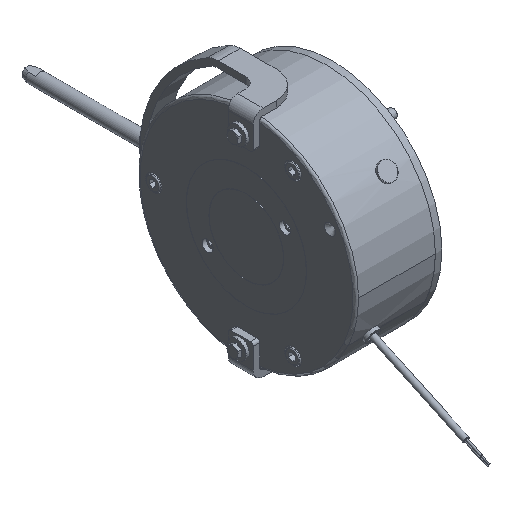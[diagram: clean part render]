
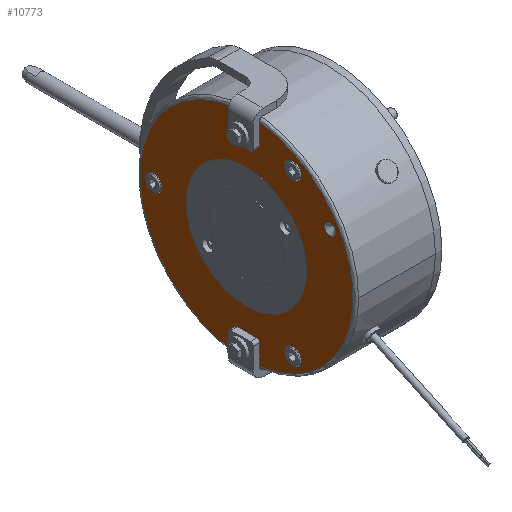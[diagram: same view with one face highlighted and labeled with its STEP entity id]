
A CAD part, isometric view. The second image highlights one B-rep face of the part: STEP entity #10773.
In plain terms, the highlighted planar face has unit normal (-1, 0, 0).
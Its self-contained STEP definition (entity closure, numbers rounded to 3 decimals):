
#277=PLANE('',#11615);
#398=FACE_BOUND('',#1241,.T.);
#399=FACE_BOUND('',#1242,.T.);
#400=FACE_BOUND('',#1243,.T.);
#401=FACE_BOUND('',#1244,.T.);
#402=FACE_BOUND('',#1245,.T.);
#611=FACE_OUTER_BOUND('',#1240,.T.);
#1240=EDGE_LOOP('',(#7333,#7334,#7335,#7336,#7337,#7338,#7339,#7340,#7341,
#7342,#7343,#7344));
#1241=EDGE_LOOP('',(#7345,#7346));
#1242=EDGE_LOOP('',(#7347,#7348));
#1243=EDGE_LOOP('',(#7349,#7350));
#1244=EDGE_LOOP('',(#7351,#7352));
#1245=EDGE_LOOP('',(#7353,#7354));
#2052=CIRCLE('',#11439,55.);
#2053=CIRCLE('',#11440,55.);
#2083=CIRCLE('',#11481,7.5);
#2084=CIRCLE('',#11482,7.5);
#2089=CIRCLE('',#11490,7.5);
#2090=CIRCLE('',#11491,7.5);
#2095=CIRCLE('',#11499,7.5);
#2096=CIRCLE('',#11500,7.5);
#2103=CIRCLE('',#11511,97.5);
#2106=CIRCLE('',#11514,97.5);
#2138=CIRCLE('',#11560,5.);
#2139=CIRCLE('',#11561,5.);
#2168=CIRCLE('',#11616,2.5);
#2169=CIRCLE('',#11617,2.5);
#2170=CIRCLE('',#11618,2.5);
#2171=CIRCLE('',#11619,2.5);
#2894=LINE('',#17066,#3437);
#2895=LINE('',#17070,#3438);
#2896=LINE('',#17073,#3439);
#2897=LINE('',#17075,#3440);
#2898=LINE('',#17079,#3441);
#2899=LINE('',#17082,#3442);
#3437=VECTOR('',#13558,10.);
#3438=VECTOR('',#13561,10.);
#3439=VECTOR('',#13564,10.);
#3440=VECTOR('',#13565,10.);
#3441=VECTOR('',#13568,10.);
#3442=VECTOR('',#13571,10.);
#4015=VERTEX_POINT('',#16724);
#4016=VERTEX_POINT('',#16725);
#4042=VERTEX_POINT('',#16797);
#4043=VERTEX_POINT('',#16798);
#4048=VERTEX_POINT('',#16814);
#4049=VERTEX_POINT('',#16815);
#4054=VERTEX_POINT('',#16831);
#4055=VERTEX_POINT('',#16832);
#4062=VERTEX_POINT('',#16877);
#4063=VERTEX_POINT('',#16879);
#4065=VERTEX_POINT('',#16883);
#4066=VERTEX_POINT('',#16885);
#4095=VERTEX_POINT('',#16968);
#4096=VERTEX_POINT('',#16969);
#4120=VERTEX_POINT('',#17065);
#4121=VERTEX_POINT('',#17067);
#4122=VERTEX_POINT('',#17069);
#4123=VERTEX_POINT('',#17071);
#4124=VERTEX_POINT('',#17074);
#4125=VERTEX_POINT('',#17076);
#4126=VERTEX_POINT('',#17078);
#4127=VERTEX_POINT('',#17080);
#5180=EDGE_CURVE('',#4015,#4016,#2052,.T.);
#5181=EDGE_CURVE('',#4016,#4015,#2053,.T.);
#5215=EDGE_CURVE('',#4042,#4043,#2083,.T.);
#5216=EDGE_CURVE('',#4043,#4042,#2084,.T.);
#5223=EDGE_CURVE('',#4048,#4049,#2089,.T.);
#5224=EDGE_CURVE('',#4049,#4048,#2090,.T.);
#5231=EDGE_CURVE('',#4054,#4055,#2095,.T.);
#5232=EDGE_CURVE('',#4055,#4054,#2096,.T.);
#5244=EDGE_CURVE('',#4062,#4063,#2103,.T.);
#5247=EDGE_CURVE('',#4065,#4066,#2106,.T.);
#5287=EDGE_CURVE('',#4095,#4096,#2138,.T.);
#5288=EDGE_CURVE('',#4096,#4095,#2139,.T.);
#5333=EDGE_CURVE('',#4062,#4120,#2894,.T.);
#5334=EDGE_CURVE('',#4120,#4121,#2168,.T.);
#5335=EDGE_CURVE('',#4121,#4122,#2895,.T.);
#5336=EDGE_CURVE('',#4122,#4123,#2169,.T.);
#5337=EDGE_CURVE('',#4123,#4066,#2896,.T.);
#5338=EDGE_CURVE('',#4065,#4124,#2897,.T.);
#5339=EDGE_CURVE('',#4124,#4125,#2170,.T.);
#5340=EDGE_CURVE('',#4125,#4126,#2898,.T.);
#5341=EDGE_CURVE('',#4126,#4127,#2171,.T.);
#5342=EDGE_CURVE('',#4127,#4063,#2899,.T.);
#7333=ORIENTED_EDGE('',*,*,#5333,.T.);
#7334=ORIENTED_EDGE('',*,*,#5334,.T.);
#7335=ORIENTED_EDGE('',*,*,#5335,.T.);
#7336=ORIENTED_EDGE('',*,*,#5336,.T.);
#7337=ORIENTED_EDGE('',*,*,#5337,.T.);
#7338=ORIENTED_EDGE('',*,*,#5247,.F.);
#7339=ORIENTED_EDGE('',*,*,#5338,.T.);
#7340=ORIENTED_EDGE('',*,*,#5339,.T.);
#7341=ORIENTED_EDGE('',*,*,#5340,.T.);
#7342=ORIENTED_EDGE('',*,*,#5341,.T.);
#7343=ORIENTED_EDGE('',*,*,#5342,.T.);
#7344=ORIENTED_EDGE('',*,*,#5244,.F.);
#7345=ORIENTED_EDGE('',*,*,#5231,.T.);
#7346=ORIENTED_EDGE('',*,*,#5232,.T.);
#7347=ORIENTED_EDGE('',*,*,#5223,.T.);
#7348=ORIENTED_EDGE('',*,*,#5224,.T.);
#7349=ORIENTED_EDGE('',*,*,#5215,.T.);
#7350=ORIENTED_EDGE('',*,*,#5216,.T.);
#7351=ORIENTED_EDGE('',*,*,#5180,.T.);
#7352=ORIENTED_EDGE('',*,*,#5181,.T.);
#7353=ORIENTED_EDGE('',*,*,#5287,.T.);
#7354=ORIENTED_EDGE('',*,*,#5288,.T.);
#10773=ADVANCED_FACE('',(#611,#398,#399,#400,#401,#402),#277,.T.);
#11439=AXIS2_PLACEMENT_3D('',#16726,#13168,#13169);
#11440=AXIS2_PLACEMENT_3D('',#16727,#13170,#13171);
#11481=AXIS2_PLACEMENT_3D('',#16799,#13256,#13257);
#11482=AXIS2_PLACEMENT_3D('',#16800,#13258,#13259);
#11490=AXIS2_PLACEMENT_3D('',#16816,#13276,#13277);
#11491=AXIS2_PLACEMENT_3D('',#16817,#13278,#13279);
#11499=AXIS2_PLACEMENT_3D('',#16833,#13296,#13297);
#11500=AXIS2_PLACEMENT_3D('',#16834,#13298,#13299);
#11511=AXIS2_PLACEMENT_3D('',#16880,#13324,#13325);
#11514=AXIS2_PLACEMENT_3D('',#16886,#13330,#13331);
#11560=AXIS2_PLACEMENT_3D('',#16970,#13430,#13431);
#11561=AXIS2_PLACEMENT_3D('',#16971,#13432,#13433);
#11615=AXIS2_PLACEMENT_3D('',#17064,#13556,#13557);
#11616=AXIS2_PLACEMENT_3D('',#17068,#13559,#13560);
#11617=AXIS2_PLACEMENT_3D('',#17072,#13562,#13563);
#11618=AXIS2_PLACEMENT_3D('',#17077,#13566,#13567);
#11619=AXIS2_PLACEMENT_3D('',#17081,#13569,#13570);
#13168=DIRECTION('center_axis',(1.,0.,0.));
#13169=DIRECTION('ref_axis',(0.,1.,0.));
#13170=DIRECTION('center_axis',(1.,0.,0.));
#13171=DIRECTION('ref_axis',(0.,1.,0.));
#13256=DIRECTION('center_axis',(1.,0.,0.));
#13257=DIRECTION('ref_axis',(0.,0.,1.));
#13258=DIRECTION('center_axis',(1.,0.,0.));
#13259=DIRECTION('ref_axis',(0.,0.,1.));
#13276=DIRECTION('center_axis',(1.,0.,0.));
#13277=DIRECTION('ref_axis',(0.,-0.866,-0.5));
#13278=DIRECTION('center_axis',(1.,0.,0.));
#13279=DIRECTION('ref_axis',(0.,-0.866,-0.5));
#13296=DIRECTION('center_axis',(1.,0.,0.));
#13297=DIRECTION('ref_axis',(0.,0.866,-0.5));
#13298=DIRECTION('center_axis',(1.,0.,0.));
#13299=DIRECTION('ref_axis',(0.,0.866,-0.5));
#13324=DIRECTION('center_axis',(1.,0.,0.));
#13325=DIRECTION('ref_axis',(0.,-1.,0.));
#13330=DIRECTION('center_axis',(1.,0.,0.));
#13331=DIRECTION('ref_axis',(0.,-1.,0.));
#13430=DIRECTION('center_axis',(1.,0.,0.));
#13431=DIRECTION('ref_axis',(0.,0.,1.));
#13432=DIRECTION('center_axis',(1.,0.,0.));
#13433=DIRECTION('ref_axis',(0.,0.,1.));
#13556=DIRECTION('center_axis',(-1.,0.,0.));
#13557=DIRECTION('ref_axis',(0.,0.,1.));
#13558=DIRECTION('',(0.,0.,-1.));
#13559=DIRECTION('center_axis',(1.,0.,0.));
#13560=DIRECTION('ref_axis',(0.,-0.707,-0.707));
#13561=DIRECTION('',(0.,1.,0.));
#13562=DIRECTION('center_axis',(1.,0.,0.));
#13563=DIRECTION('ref_axis',(0.,0.707,-0.707));
#13564=DIRECTION('',(0.,0.,1.));
#13565=DIRECTION('',(0.,0.,1.));
#13566=DIRECTION('center_axis',(1.,0.,0.));
#13567=DIRECTION('ref_axis',(0.,0.707,0.707));
#13568=DIRECTION('',(0.,-1.,0.));
#13569=DIRECTION('center_axis',(1.,0.,0.));
#13570=DIRECTION('ref_axis',(0.,-0.707,0.707));
#13571=DIRECTION('',(0.,0.,-1.));
#16724=CARTESIAN_POINT('',(-72.8,55.,0.));
#16725=CARTESIAN_POINT('',(-72.8,-55.,0.));
#16726=CARTESIAN_POINT('Origin',(-72.8,0.,0.));
#16727=CARTESIAN_POINT('Origin',(-72.8,0.,0.));
#16797=CARTESIAN_POINT('',(-72.8,85.,7.5));
#16798=CARTESIAN_POINT('',(-72.8,85.,-7.5));
#16799=CARTESIAN_POINT('Origin',(-72.8,85.,0.));
#16800=CARTESIAN_POINT('Origin',(-72.8,85.,0.));
#16814=CARTESIAN_POINT('',(-72.8,-48.995,69.862));
#16815=CARTESIAN_POINT('',(-72.8,-36.005,77.362));
#16816=CARTESIAN_POINT('Origin',(-72.8,-42.5,73.612));
#16817=CARTESIAN_POINT('Origin',(-72.8,-42.5,73.612));
#16831=CARTESIAN_POINT('',(-72.8,-36.005,-77.362));
#16832=CARTESIAN_POINT('',(-72.8,-48.995,-69.862));
#16833=CARTESIAN_POINT('Origin',(-72.8,-42.5,-73.612));
#16834=CARTESIAN_POINT('Origin',(-72.8,-42.5,-73.612));
#16877=CARTESIAN_POINT('',(-72.8,-12.,96.759));
#16879=CARTESIAN_POINT('',(-72.8,-12.,-96.759));
#16880=CARTESIAN_POINT('Origin',(-72.8,0.,0.));
#16883=CARTESIAN_POINT('',(-72.8,11.,-96.877));
#16885=CARTESIAN_POINT('',(-72.8,11.,96.877));
#16886=CARTESIAN_POINT('Origin',(-72.8,0.,0.));
#16968=CARTESIAN_POINT('',(-72.8,-76.21,49.));
#16969=CARTESIAN_POINT('',(-72.8,-76.21,39.));
#16970=CARTESIAN_POINT('Origin',(-72.8,-76.21,44.));
#16971=CARTESIAN_POINT('Origin',(-72.8,-76.21,44.));
#17064=CARTESIAN_POINT('Origin',(-72.8,77.5,0.));
#17065=CARTESIAN_POINT('',(-72.8,-12.,78.));
#17066=CARTESIAN_POINT('',(-72.8,-12.,53.25));
#17067=CARTESIAN_POINT('',(-72.8,-9.5,75.5));
#17068=CARTESIAN_POINT('Origin',(-72.8,-9.5,78.));
#17069=CARTESIAN_POINT('',(-72.8,8.5,75.5));
#17070=CARTESIAN_POINT('',(-72.8,44.25,75.5));
#17071=CARTESIAN_POINT('',(-72.8,11.,78.));
#17072=CARTESIAN_POINT('Origin',(-72.8,8.5,78.));
#17073=CARTESIAN_POINT('',(-72.8,11.,50.25));
#17074=CARTESIAN_POINT('',(-72.8,11.,-78.));
#17075=CARTESIAN_POINT('',(-72.8,11.,-53.25));
#17076=CARTESIAN_POINT('',(-72.8,8.5,-75.5));
#17077=CARTESIAN_POINT('Origin',(-72.8,8.5,-78.));
#17078=CARTESIAN_POINT('',(-72.8,-9.5,-75.5));
#17079=CARTESIAN_POINT('',(-72.8,32.75,-75.5));
#17080=CARTESIAN_POINT('',(-72.8,-12.,-78.));
#17081=CARTESIAN_POINT('Origin',(-72.8,-9.5,-78.));
#17082=CARTESIAN_POINT('',(-72.8,-12.,-50.25));
